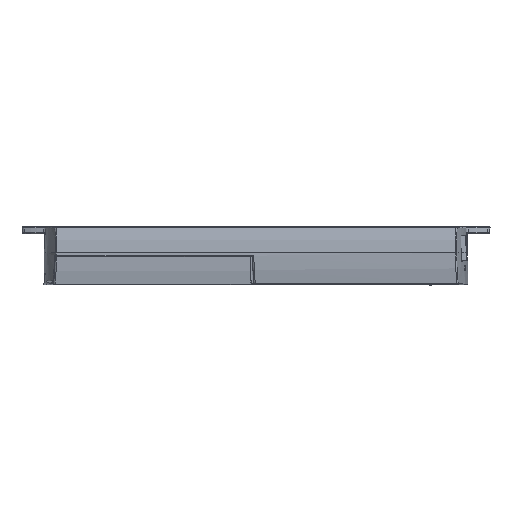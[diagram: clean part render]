
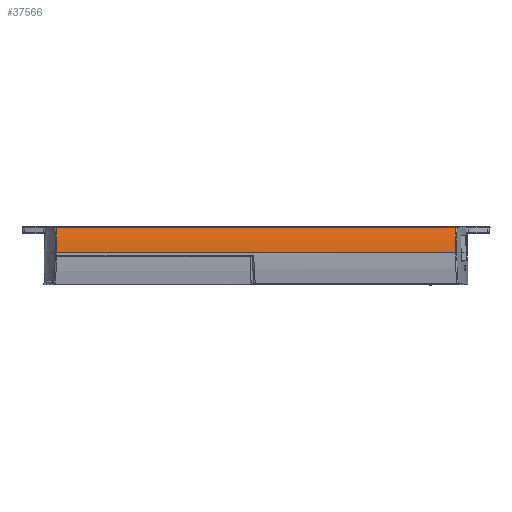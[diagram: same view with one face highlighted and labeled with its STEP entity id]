
A CAD part, front view. The second image highlights one B-rep face of the part: STEP entity #37566.
In plain terms, the highlighted cylindrical face has radius 90 mm (diameter 180 mm), a partial arc.
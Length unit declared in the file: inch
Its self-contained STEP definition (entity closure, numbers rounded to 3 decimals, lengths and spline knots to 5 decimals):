
#492 = CARTESIAN_POINT ( 'NONE',  ( 5.70548, -0.88935, 3.58 ) ) ;
#2464 = EDGE_CURVE ( 'NONE', #8300, #38858, #47983, .T. ) ;
#5098 = CARTESIAN_POINT ( 'NONE',  ( -5.7076, -0.87686, 3.69022 ) ) ;
#6621 = CARTESIAN_POINT ( 'NONE',  ( -5.7184, -0.82717, 3.98532 ) ) ;
#7276 = CARTESIAN_POINT ( 'NONE',  ( -5.70755, -0.87709, 3.68843 ) ) ;
#8300 = VERTEX_POINT ( 'NONE', #17758 ) ;
#8825 = CARTESIAN_POINT ( 'NONE',  ( 5.72177, -0.81309, 4.04588 ) ) ;
#9111 = AXIS2_PLACEMENT_3D ( 'NONE', #87257, #78926, #25785 ) ;
#14842 = CARTESIAN_POINT ( 'NONE',  ( 5.70442, -0.90003, 3.44328 ) ) ;
#17141 = DIRECTION ( 'NONE',  ( 1., 0., 0. ) ) ;
#17157 = CARTESIAN_POINT ( 'NONE',  ( 5.70692, -0.8806, 3.65989 ) ) ;
#17715 = B_SPLINE_CURVE_WITH_KNOTS ( 'NONE', 3,
 ( #50139, #6621, #27620, #60643, #32907, #42562, #98666, #21113, #72204, #74749, #5098, #7276, #78509, #17775, #18431 ),
 .UNSPECIFIED., .F., .F.,
 ( 4, 2, 2, 1, 1, 1, 2, 2, 4 ),
 ( 0., 0.25, 0.375, 0.4375, 0.46875, 0.48438, 0.49219, 0.5, 1. ),
 .UNSPECIFIED. ) ;
#17758 = CARTESIAN_POINT ( 'NONE',  ( 5.7052, -0.90427, 3.32221 ) ) ;
#17775 = CARTESIAN_POINT ( 'NONE',  ( -5.7039, -0.90158, 3.44309 ) ) ;
#18431 = CARTESIAN_POINT ( 'NONE',  ( -5.7052, -0.90427, 3.32221 ) ) ;
#19188 = LINE ( 'NONE', #30033, #71913 ) ;
#21113 = CARTESIAN_POINT ( 'NONE',  ( -5.70814, -0.87399, 3.71241 ) ) ;
#23903 = CARTESIAN_POINT ( 'NONE',  ( 5.70499, -0.89331, 3.5344 ) ) ;
#25785 = DIRECTION ( 'NONE',  ( 0., -1., 0. ) ) ;
#27289 = VERTEX_POINT ( 'NONE', #68413 ) ;
#27620 = CARTESIAN_POINT ( 'NONE',  ( -5.71552, -0.83951, 3.92503 ) ) ;
#29297 = EDGE_LOOP ( 'NONE', ( #35870, #71519, #53331, #93318 ) ) ;
#30033 = CARTESIAN_POINT ( 'NONE',  ( 6.87008, -0.81309, 4.04588 ) ) ;
#31379 = CYLINDRICAL_SURFACE ( 'NONE', #9111, 3.54331 ) ;
#32907 = CARTESIAN_POINT ( 'NONE',  ( -5.71089, -0.86045, 3.80527 ) ) ;
#35870 = ORIENTED_EDGE ( 'NONE', *, *, #2464, .T. ) ;
#37154 = VECTOR ( 'NONE', #17141, 39.37008 ) ;
#37566 = ADVANCED_FACE ( 'NONE', ( #98293 ), #31379, .T. ) ;
#38858 = VERTEX_POINT ( 'NONE', #53510 ) ;
#38959 = CARTESIAN_POINT ( 'NONE',  ( 5.70638, -0.88369, 3.63325 ) ) ;
#40293 = CARTESIAN_POINT ( 'NONE',  ( 5.70747, -0.87756, 3.68468 ) ) ;
#42562 = CARTESIAN_POINT ( 'NONE',  ( -5.70948, -0.86723, 3.76062 ) ) ;
#47664 = CARTESIAN_POINT ( 'NONE',  ( 5.71502, -0.84125, 3.92477 ) ) ;
#47983 = B_SPLINE_CURVE_WITH_KNOTS ( 'NONE', 3,
 ( #60669, #53336, #14842, #23903, #492, #38959, #17157, #69387, #93414, #53987, #40293, #86054, #47664, #8825 ),
 .UNSPECIFIED., .F., .F.,
 ( 4, 2, 1, 1, 1, 1, 2, 2, 4 ),
 ( 0., 0.25, 0.375, 0.4375, 0.46875, 0.48438, 0.49219, 0.5, 1. ),
 .UNSPECIFIED. ) ;
#50139 = CARTESIAN_POINT ( 'NONE',  ( -5.72177, -0.81309, 4.04588 ) ) ;
#51533 = LINE ( 'NONE', #85719, #37154 ) ;
#53210 = EDGE_CURVE ( 'NONE', #90335, #27289, #17715, .T. ) ;
#53331 = ORIENTED_EDGE ( 'NONE', *, *, #53210, .T. ) ;
#53336 = CARTESIAN_POINT ( 'NONE',  ( 5.70455, -0.90292, 3.38265 ) ) ;
#53510 = CARTESIAN_POINT ( 'NONE',  ( 5.72177, -0.81309, 4.04588 ) ) ;
#53987 = CARTESIAN_POINT ( 'NONE',  ( 5.70742, -0.87781, 3.68272 ) ) ;
#55371 = EDGE_CURVE ( 'NONE', #38858, #90335, #19188, .T. ) ;
#60643 = CARTESIAN_POINT ( 'NONE',  ( -5.71195, -0.85552, 3.83514 ) ) ;
#60669 = CARTESIAN_POINT ( 'NONE',  ( 5.7052, -0.90427, 3.32221 ) ) ;
#67439 = DIRECTION ( 'NONE',  ( -1., 0., 0. ) ) ;
#68413 = CARTESIAN_POINT ( 'NONE',  ( -5.7052, -0.90427, 3.32221 ) ) ;
#69387 = CARTESIAN_POINT ( 'NONE',  ( 5.70721, -0.87899, 3.6732 ) ) ;
#71519 = ORIENTED_EDGE ( 'NONE', *, *, #55371, .T. ) ;
#71913 = VECTOR ( 'NONE', #67439, 39.37008 ) ;
#72204 = CARTESIAN_POINT ( 'NONE',  ( -5.70782, -0.87568, 3.69946 ) ) ;
#74749 = CARTESIAN_POINT ( 'NONE',  ( -5.70768, -0.87639, 3.69391 ) ) ;
#78509 = CARTESIAN_POINT ( 'NONE',  ( -5.70467, -0.89268, 3.56475 ) ) ;
#78926 = DIRECTION ( 'NONE',  ( -1., 0., 0. ) ) ;
#81314 = EDGE_CURVE ( 'NONE', #27289, #8300, #51533, .T. ) ;
#85719 = CARTESIAN_POINT ( 'NONE',  ( 6.87008, -0.90427, 3.32221 ) ) ;
#86054 = CARTESIAN_POINT ( 'NONE',  ( 5.71027, -0.86244, 3.80472 ) ) ;
#87257 = CARTESIAN_POINT ( 'NONE',  ( 6.87008, 2.63817, 3.24347 ) ) ;
#90335 = VERTEX_POINT ( 'NONE', #92331 ) ;
#92331 = CARTESIAN_POINT ( 'NONE',  ( -5.72177, -0.81309, 4.04588 ) ) ;
#93318 = ORIENTED_EDGE ( 'NONE', *, *, #81314, .T. ) ;
#93414 = CARTESIAN_POINT ( 'NONE',  ( 5.70733, -0.87828, 3.67891 ) ) ;
#98293 = FACE_OUTER_BOUND ( 'NONE', #29297, .T. ) ;
#98666 = CARTESIAN_POINT ( 'NONE',  ( -5.70883, -0.87047, 3.73834 ) ) ;
